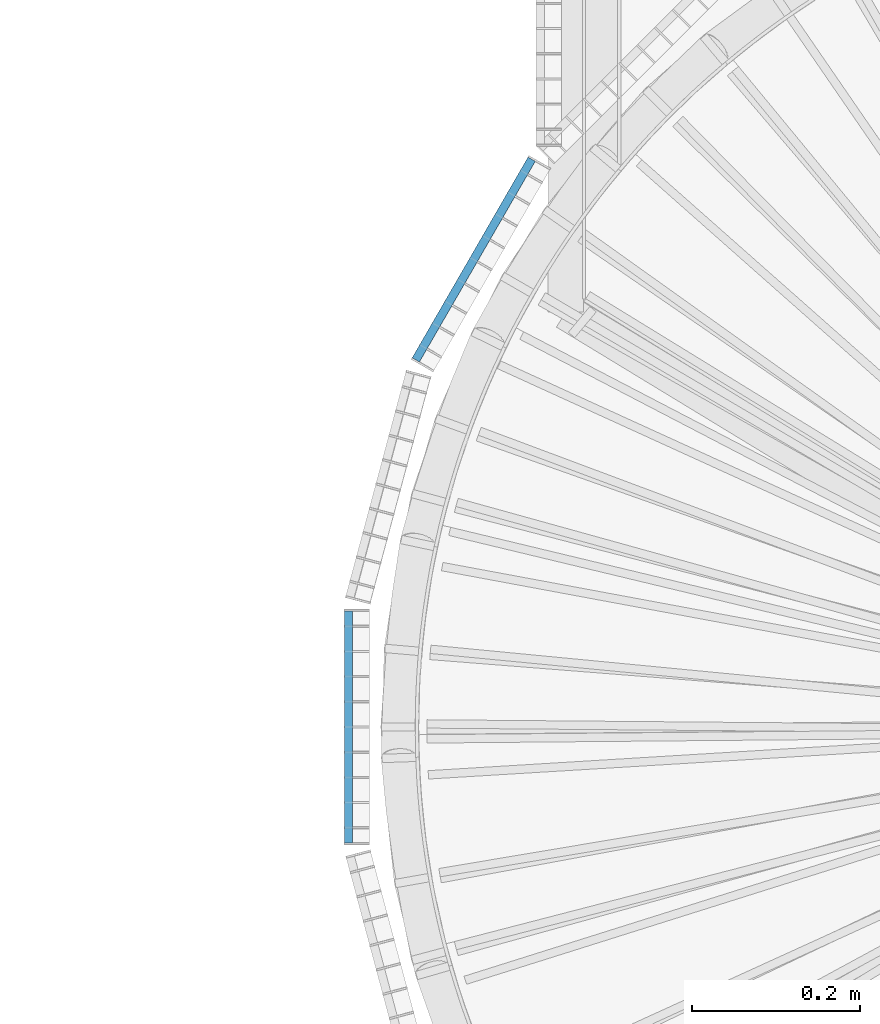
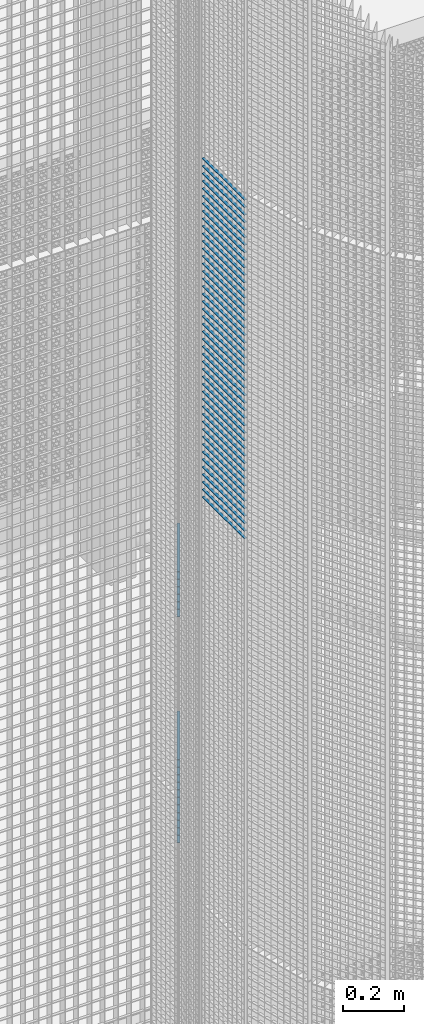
# One storey, part 193 of 1148: 65 beams, 2 elements without a shape of their own.
"""IFC2X3 building model written with IfcOpenShell, lengths in millimetres."""

from ifc_helpers import new_model, si_unit, frame, origin_with_axes, origin_2d_with_axis, place, context, subcontext, project, spatial, rectangle, extrude, material, type_object, element, aggregate, save


model = new_model("IFC2X3")

# Units and contexts
model_context = context("Model", 3, precision=1e-05, world=origin_with_axes())
body_context = subcontext(model_context, "Body", "Model", "MODEL_VIEW")
ifc_project = project(units=[si_unit("LENGTHUNIT", "METRE", prefix="MILLI"), si_unit("AREAUNIT", "SQUARE_METRE"), si_unit("VOLUMEUNIT", "CUBIC_METRE"), si_unit("MASSUNIT", "GRAM", prefix="KILO"), si_unit("TIMEUNIT", "SECOND"), si_unit("PLANEANGLEUNIT", "RADIAN"), si_unit("SOLIDANGLEUNIT", "STERADIAN"), si_unit("THERMODYNAMICTEMPERATUREUNIT", "DEGREE_CELSIUS"), si_unit("LUMINOUSINTENSITYUNIT", "LUMEN")], contexts=[model_context])

# Site, building, storey
site_placement = place(None, origin_with_axes())
site = spatial("IfcSite", under=ifc_project, at=site_placement, Name="Undefined", CompositionType="ELEMENT")
building_placement = place(site_placement, origin_with_axes())
building = spatial("IfcBuilding", under=site, at=building_placement, Name="Undefined", CompositionType="ELEMENT")
storey_placement = place(building_placement, origin_with_axes())
storey = spatial("IfcBuildingStorey", under=building, at=storey_placement, Name="Undefined", CompositionType="ELEMENT", Elevation=0.0)

# Assembly, beams
assembly_1_placement = place(storey_placement, origin_with_axes())
assembly_1 = element("IfcElementAssembly", 1, at=assembly_1_placement, inside=storey, Name="BORDURE", AssemblyPlace="NOTDEFINED", PredefinedType="NOTDEFINED")
ifc_material = material(Name="STEEL/S235JR")
beam_type = type_object("IfcBeamType", Name="PL2*10", PredefinedType="NOTDEFINED")
beam_1_placement = place(assembly_1_placement, frame((-895.303964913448, 676.248044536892, 9930.0), z_axis=(-0.866025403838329, 0.499999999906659, 0.0), x_axis=(-0.49999999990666, -0.866025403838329, 0.0)))
beam_1 = element("IfcBeam", 2, at=beam_1_placement, type_object=beam_type, material=ifc_material, Name="ENTRETOISE", context=body_context, shape_type="SweptSolid", body=[
    extrude(rectangle(XDim=2.0, YDim=10.0, at=origin_2d_with_axis()), frame((275.999999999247, 9.09494701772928e-13, 1.53210777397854e-14), z_axis=(-1.0, 0.0, 0.0), x_axis=(0.0, -1.0, 0.0)), (0.0, 0.0, 1.0), 276.0),
])
beam_2_placement = place(assembly_1_placement, frame((-895.30396491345, 676.248044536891, 9360.0), z_axis=(-0.866025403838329, 0.499999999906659, 0.0), x_axis=(-0.49999999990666, -0.866025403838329, 0.0)))
beam_2 = element("IfcBeam", 3, at=beam_2_placement, type_object=beam_type, material=ifc_material, Name="ENTRETOISE", context=body_context, shape_type="SweptSolid", body=[
    extrude(rectangle(XDim=2.0, YDim=10.0, at=origin_2d_with_axis()), frame((275.999999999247, 9.09494701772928e-13, 1.53210777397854e-14), z_axis=(-1.0, 0.0, 0.0), x_axis=(0.0, -1.0, 0.0)), (0.0, 0.0, 1.0), 276.0),
])
beam_3_placement = place(assembly_1_placement, frame((-895.303964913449, 676.248044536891, 9330.0), z_axis=(-0.866025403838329, 0.499999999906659, 0.0), x_axis=(-0.49999999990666, -0.866025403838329, 0.0)))
beam_3 = element("IfcBeam", 4, at=beam_3_placement, type_object=beam_type, material=ifc_material, Name="ENTRETOISE", context=body_context, shape_type="SweptSolid", body=[
    extrude(rectangle(XDim=2.0, YDim=10.0, at=origin_2d_with_axis()), frame((275.999999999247, 9.09494701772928e-13, 1.53210777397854e-14), z_axis=(-1.0, 0.0, 0.0), x_axis=(0.0, -1.0, 0.0)), (0.0, 0.0, 1.0), 276.0),
])
beam_4_placement = place(assembly_1_placement, frame((-895.303964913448, 676.248044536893, 9960.0), z_axis=(-0.866025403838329, 0.499999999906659, 0.0), x_axis=(-0.49999999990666, -0.866025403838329, 0.0)))
beam_4 = element("IfcBeam", 5, at=beam_4_placement, type_object=beam_type, material=ifc_material, Name="ENTRETOISE", context=body_context, shape_type="SweptSolid", body=[
    extrude(rectangle(XDim=2.0, YDim=10.0, at=origin_2d_with_axis()), frame((275.999999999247, 9.09494701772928e-13, 1.53210777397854e-14), z_axis=(-1.0, 0.0, 0.0), x_axis=(0.0, -1.0, 0.0)), (0.0, 0.0, 1.0), 276.0),
])
beam_5_placement = place(assembly_1_placement, frame((-895.303964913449, 676.248044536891, 9300.0), z_axis=(-0.866025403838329, 0.499999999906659, 0.0), x_axis=(-0.49999999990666, -0.866025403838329, 0.0)))
beam_5 = element("IfcBeam", 6, at=beam_5_placement, type_object=beam_type, material=ifc_material, Name="ENTRETOISE", context=body_context, shape_type="SweptSolid", body=[
    extrude(rectangle(XDim=2.0, YDim=10.0, at=origin_2d_with_axis()), frame((275.999999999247, 9.09494701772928e-13, 1.53210777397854e-14), z_axis=(-1.0, 0.0, 0.0), x_axis=(0.0, -1.0, 0.0)), (0.0, 0.0, 1.0), 276.0),
])
beam_6_placement = place(assembly_1_placement, frame((-895.303964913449, 676.248044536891, 9270.0), z_axis=(-0.866025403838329, 0.499999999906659, 0.0), x_axis=(-0.49999999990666, -0.866025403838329, 0.0)))
beam_6 = element("IfcBeam", 7, at=beam_6_placement, type_object=beam_type, material=ifc_material, Name="ENTRETOISE", context=body_context, shape_type="SweptSolid", body=[
    extrude(rectangle(XDim=2.0, YDim=10.0, at=origin_2d_with_axis()), frame((275.999999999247, 9.09494701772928e-13, 1.53210777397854e-14), z_axis=(-1.0, 0.0, 0.0), x_axis=(0.0, -1.0, 0.0)), (0.0, 0.0, 1.0), 276.0),
])
beam_7_placement = place(assembly_1_placement, frame((-895.303964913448, 676.248044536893, 9990.0), z_axis=(-0.866025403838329, 0.499999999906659, 0.0), x_axis=(-0.49999999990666, -0.866025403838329, 0.0)))
beam_7 = element("IfcBeam", 8, at=beam_7_placement, type_object=beam_type, material=ifc_material, Name="ENTRETOISE", context=body_context, shape_type="SweptSolid", body=[
    extrude(rectangle(XDim=2.0, YDim=10.0, at=origin_2d_with_axis()), frame((275.999999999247, 9.09494701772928e-13, 1.53210777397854e-14), z_axis=(-1.0, 0.0, 0.0), x_axis=(0.0, -1.0, 0.0)), (0.0, 0.0, 1.0), 276.0),
])
beam_8_placement = place(assembly_1_placement, frame((-895.303964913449, 676.24804453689, 9240.0), z_axis=(-0.866025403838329, 0.499999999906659, 0.0), x_axis=(-0.49999999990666, -0.866025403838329, 0.0)))
beam_8 = element("IfcBeam", 9, at=beam_8_placement, type_object=beam_type, material=ifc_material, Name="ENTRETOISE", context=body_context, shape_type="SweptSolid", body=[
    extrude(rectangle(XDim=2.0, YDim=10.0, at=origin_2d_with_axis()), frame((275.999999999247, 9.09494701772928e-13, 1.53210777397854e-14), z_axis=(-1.0, 0.0, 0.0), x_axis=(0.0, -1.0, 0.0)), (0.0, 0.0, 1.0), 276.0),
])
beam_9_placement = place(assembly_1_placement, frame((-895.303964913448, 676.248044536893, 10020.0), z_axis=(-0.866025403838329, 0.499999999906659, 0.0), x_axis=(-0.49999999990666, -0.866025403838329, 0.0)))
beam_9 = element("IfcBeam", 10, at=beam_9_placement, type_object=beam_type, material=ifc_material, Name="ENTRETOISE", context=body_context, shape_type="SweptSolid", body=[
    extrude(rectangle(XDim=2.0, YDim=10.0, at=origin_2d_with_axis()), frame((275.999999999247, 9.09494701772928e-13, 1.53210777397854e-14), z_axis=(-1.0, 0.0, 0.0), x_axis=(0.0, -1.0, 0.0)), (0.0, 0.0, 1.0), 276.0),
])
beam_10_placement = place(assembly_1_placement, frame((-895.303964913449, 676.24804453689, 9210.0), z_axis=(-0.866025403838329, 0.499999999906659, 0.0), x_axis=(-0.49999999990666, -0.866025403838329, 0.0)))
beam_10 = element("IfcBeam", 11, at=beam_10_placement, type_object=beam_type, material=ifc_material, Name="ENTRETOISE", context=body_context, shape_type="SweptSolid", body=[
    extrude(rectangle(XDim=2.0, YDim=10.0, at=origin_2d_with_axis()), frame((275.999999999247, 9.09494701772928e-13, 1.53210777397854e-14), z_axis=(-1.0, 0.0, 0.0), x_axis=(0.0, -1.0, 0.0)), (0.0, 0.0, 1.0), 276.0),
])
beam_11_placement = place(assembly_1_placement, frame((-895.30396491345, 676.24804453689, 9180.0), z_axis=(-0.866025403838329, 0.499999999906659, 0.0), x_axis=(-0.49999999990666, -0.866025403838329, 0.0)))
beam_11 = element("IfcBeam", 12, at=beam_11_placement, type_object=beam_type, material=ifc_material, Name="ENTRETOISE", context=body_context, shape_type="SweptSolid", body=[
    extrude(rectangle(XDim=2.0, YDim=10.0, at=origin_2d_with_axis()), frame((275.999999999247, 9.09494701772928e-13, 1.53210777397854e-14), z_axis=(-1.0, 0.0, 0.0), x_axis=(0.0, -1.0, 0.0)), (0.0, 0.0, 1.0), 276.0),
])
beam_12_placement = place(assembly_1_placement, frame((-895.303964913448, 676.248044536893, 10050.0), z_axis=(-0.866025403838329, 0.499999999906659, 0.0), x_axis=(-0.49999999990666, -0.866025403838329, 0.0)))
beam_12 = element("IfcBeam", 13, at=beam_12_placement, type_object=beam_type, material=ifc_material, Name="ENTRETOISE", context=body_context, shape_type="SweptSolid", body=[
    extrude(rectangle(XDim=2.0, YDim=10.0, at=origin_2d_with_axis()), frame((275.999999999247, 9.09494701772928e-13, 1.53210777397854e-14), z_axis=(-1.0, 0.0, 0.0), x_axis=(0.0, -1.0, 0.0)), (0.0, 0.0, 1.0), 276.0),
])
beam_13_placement = place(assembly_1_placement, frame((-895.30396491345, 676.24804453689, 9150.0), z_axis=(-0.866025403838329, 0.499999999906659, 0.0), x_axis=(-0.49999999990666, -0.866025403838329, 0.0)))
beam_13 = element("IfcBeam", 14, at=beam_13_placement, type_object=beam_type, material=ifc_material, Name="ENTRETOISE", context=body_context, shape_type="SweptSolid", body=[
    extrude(rectangle(XDim=2.0, YDim=10.0, at=origin_2d_with_axis()), frame((275.999999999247, 9.09494701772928e-13, 1.53210777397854e-14), z_axis=(-1.0, 0.0, 0.0), x_axis=(0.0, -1.0, 0.0)), (0.0, 0.0, 1.0), 276.0),
])
beam_14_placement = place(assembly_1_placement, frame((-895.30396491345, 676.24804453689, 9120.0), z_axis=(-0.866025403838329, 0.499999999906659, 0.0), x_axis=(-0.49999999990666, -0.866025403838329, 0.0)))
beam_14 = element("IfcBeam", 15, at=beam_14_placement, type_object=beam_type, material=ifc_material, Name="ENTRETOISE", context=body_context, shape_type="SweptSolid", body=[
    extrude(rectangle(XDim=2.0, YDim=10.0, at=origin_2d_with_axis()), frame((275.999999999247, 9.09494701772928e-13, 1.53210777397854e-14), z_axis=(-1.0, 0.0, 0.0), x_axis=(0.0, -1.0, 0.0)), (0.0, 0.0, 1.0), 276.0),
])
beam_15_placement = place(assembly_1_placement, frame((-895.303964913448, 676.248044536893, 10080.0), z_axis=(-0.866025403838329, 0.499999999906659, 0.0), x_axis=(-0.49999999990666, -0.866025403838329, 0.0)))
beam_15 = element("IfcBeam", 16, at=beam_15_placement, type_object=beam_type, material=ifc_material, Name="ENTRETOISE", context=body_context, shape_type="SweptSolid", body=[
    extrude(rectangle(XDim=2.0, YDim=10.0, at=origin_2d_with_axis()), frame((275.999999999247, 9.09494701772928e-13, 1.53210777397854e-14), z_axis=(-1.0, 0.0, 0.0), x_axis=(0.0, -1.0, 0.0)), (0.0, 0.0, 1.0), 276.0),
])
beam_16_placement = place(assembly_1_placement, frame((-895.30396491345, 676.24804453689, 9090.0), z_axis=(-0.866025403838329, 0.499999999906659, 0.0), x_axis=(-0.49999999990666, -0.866025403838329, 0.0)))
beam_16 = element("IfcBeam", 17, at=beam_16_placement, type_object=beam_type, material=ifc_material, Name="ENTRETOISE", context=body_context, shape_type="SweptSolid", body=[
    extrude(rectangle(XDim=2.0, YDim=10.0, at=origin_2d_with_axis()), frame((275.999999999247, 9.09494701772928e-13, 1.53210777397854e-14), z_axis=(-1.0, 0.0, 0.0), x_axis=(0.0, -1.0, 0.0)), (0.0, 0.0, 1.0), 276.0),
])
beam_17_placement = place(assembly_1_placement, frame((-895.30396491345, 676.24804453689, 9060.0), z_axis=(-0.866025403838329, 0.499999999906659, 0.0), x_axis=(-0.49999999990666, -0.866025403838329, 0.0)))
beam_17 = element("IfcBeam", 18, at=beam_17_placement, type_object=beam_type, material=ifc_material, Name="ENTRETOISE", context=body_context, shape_type="SweptSolid", body=[
    extrude(rectangle(XDim=2.0, YDim=10.0, at=origin_2d_with_axis()), frame((275.999999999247, 9.09494701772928e-13, 1.53210777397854e-14), z_axis=(-1.0, 0.0, 0.0), x_axis=(0.0, -1.0, 0.0)), (0.0, 0.0, 1.0), 276.0),
])
beam_18_placement = place(assembly_1_placement, frame((-895.303964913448, 676.248044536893, 10110.0), z_axis=(-0.866025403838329, 0.499999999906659, 0.0), x_axis=(-0.49999999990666, -0.866025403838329, 0.0)))
beam_18 = element("IfcBeam", 19, at=beam_18_placement, type_object=beam_type, material=ifc_material, Name="ENTRETOISE", context=body_context, shape_type="SweptSolid", body=[
    extrude(rectangle(XDim=2.0, YDim=10.0, at=origin_2d_with_axis()), frame((275.999999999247, 9.09494701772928e-13, 1.53210777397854e-14), z_axis=(-1.0, 0.0, 0.0), x_axis=(0.0, -1.0, 0.0)), (0.0, 0.0, 1.0), 276.0),
])
beam_19_placement = place(assembly_1_placement, frame((-895.30396491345, 676.248044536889, 9030.0), z_axis=(-0.866025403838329, 0.499999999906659, 0.0), x_axis=(-0.49999999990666, -0.866025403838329, 0.0)))
beam_19 = element("IfcBeam", 20, at=beam_19_placement, type_object=beam_type, material=ifc_material, Name="ENTRETOISE", context=body_context, shape_type="SweptSolid", body=[
    extrude(rectangle(XDim=2.0, YDim=10.0, at=origin_2d_with_axis()), frame((275.999999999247, 9.09494701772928e-13, 1.53210777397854e-14), z_axis=(-1.0, 0.0, 0.0), x_axis=(0.0, -1.0, 0.0)), (0.0, 0.0, 1.0), 276.0),
])
aggregate(assembly_1, [beam_1, beam_2, beam_3, beam_4, beam_5, beam_6, beam_7, beam_8, beam_9, beam_10, beam_11, beam_12, beam_13, beam_14, beam_15, beam_16, beam_17, beam_18, beam_19])

assembly_2_placement = place(storey_placement, origin_with_axes())
assembly_2 = element("IfcElementAssembly", 21, at=assembly_2_placement, inside=storey, Name="BORDURE", AssemblyPlace="NOTDEFINED", PredefinedType="NOTDEFINED")
beam_20_placement = place(assembly_2_placement, frame((-1113.47999999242, 137.996003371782, 11970.0), z_axis=(-1.0, 0.0, 0.0), x_axis=(0.0, -1.0, 0.0)))
beam_20 = element("IfcBeam", 22, at=beam_20_placement, type_object=beam_type, material=ifc_material, Name="ENTRETOISE", context=body_context, shape_type="SweptSolid", body=[
    extrude(rectangle(XDim=2.0, YDim=10.0, at=origin_2d_with_axis()), frame((275.999999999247, 9.09494701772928e-13, 1.53210777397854e-14), z_axis=(-1.0, 0.0, 0.0), x_axis=(0.0, -1.0, 0.0)), (0.0, 0.0, 1.0), 276.0),
])
beam_21_placement = place(assembly_2_placement, frame((-1113.47999999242, 137.996003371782, 11940.0), z_axis=(-1.0, 0.0, 0.0), x_axis=(0.0, -1.0, 0.0)))
beam_21 = element("IfcBeam", 23, at=beam_21_placement, type_object=beam_type, material=ifc_material, Name="ENTRETOISE", context=body_context, shape_type="SweptSolid", body=[
    extrude(rectangle(XDim=2.0, YDim=10.0, at=origin_2d_with_axis()), frame((275.999999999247, 9.09494701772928e-13, 1.53210777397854e-14), z_axis=(-1.0, 0.0, 0.0), x_axis=(0.0, -1.0, 0.0)), (0.0, 0.0, 1.0), 276.0),
])
beam_22_placement = place(assembly_2_placement, frame((-1113.47999999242, 137.996003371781, 11910.0), z_axis=(-1.0, 0.0, 0.0), x_axis=(0.0, -1.0, 0.0)))
beam_22 = element("IfcBeam", 24, at=beam_22_placement, type_object=beam_type, material=ifc_material, Name="ENTRETOISE", context=body_context, shape_type="SweptSolid", body=[
    extrude(rectangle(XDim=2.0, YDim=10.0, at=origin_2d_with_axis()), frame((275.999999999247, 9.09494701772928e-13, 1.53210777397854e-14), z_axis=(-1.0, 0.0, 0.0), x_axis=(0.0, -1.0, 0.0)), (0.0, 0.0, 1.0), 276.0),
])
beam_23_placement = place(assembly_2_placement, frame((-1113.47999999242, 137.996003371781, 11880.0), z_axis=(-1.0, 0.0, 0.0), x_axis=(0.0, -1.0, 0.0)))
beam_23 = element("IfcBeam", 25, at=beam_23_placement, type_object=beam_type, material=ifc_material, Name="ENTRETOISE", context=body_context, shape_type="SweptSolid", body=[
    extrude(rectangle(XDim=2.0, YDim=10.0, at=origin_2d_with_axis()), frame((275.999999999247, 9.09494701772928e-13, 1.53210777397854e-14), z_axis=(-1.0, 0.0, 0.0), x_axis=(0.0, -1.0, 0.0)), (0.0, 0.0, 1.0), 276.0),
])
beam_24_placement = place(assembly_2_placement, frame((-1113.47999999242, 137.996003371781, 11850.0), z_axis=(-1.0, 0.0, 0.0), x_axis=(0.0, -1.0, 0.0)))
beam_24 = element("IfcBeam", 26, at=beam_24_placement, type_object=beam_type, material=ifc_material, Name="ENTRETOISE", context=body_context, shape_type="SweptSolid", body=[
    extrude(rectangle(XDim=2.0, YDim=10.0, at=origin_2d_with_axis()), frame((275.999999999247, 9.09494701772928e-13, 1.53210777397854e-14), z_axis=(-1.0, 0.0, 0.0), x_axis=(0.0, -1.0, 0.0)), (0.0, 0.0, 1.0), 276.0),
])
beam_25_placement = place(assembly_2_placement, frame((-1113.47999999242, 137.996003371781, 11820.0), z_axis=(-1.0, 0.0, 0.0), x_axis=(0.0, -1.0, 0.0)))
beam_25 = element("IfcBeam", 27, at=beam_25_placement, type_object=beam_type, material=ifc_material, Name="ENTRETOISE", context=body_context, shape_type="SweptSolid", body=[
    extrude(rectangle(XDim=2.0, YDim=10.0, at=origin_2d_with_axis()), frame((275.999999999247, 9.09494701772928e-13, 1.53210777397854e-14), z_axis=(-1.0, 0.0, 0.0), x_axis=(0.0, -1.0, 0.0)), (0.0, 0.0, 1.0), 276.0),
])
beam_26_placement = place(assembly_2_placement, frame((-1113.47999999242, 137.996003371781, 11790.0), z_axis=(-1.0, 0.0, 0.0), x_axis=(0.0, -1.0, 0.0)))
beam_26 = element("IfcBeam", 28, at=beam_26_placement, type_object=beam_type, material=ifc_material, Name="ENTRETOISE", context=body_context, shape_type="SweptSolid", body=[
    extrude(rectangle(XDim=2.0, YDim=10.0, at=origin_2d_with_axis()), frame((275.999999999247, 9.09494701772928e-13, 1.53210777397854e-14), z_axis=(-1.0, 0.0, 0.0), x_axis=(0.0, -1.0, 0.0)), (0.0, 0.0, 1.0), 276.0),
])
beam_27_placement = place(assembly_2_placement, frame((-1113.47999999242, 137.996003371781, 11760.0), z_axis=(-1.0, 0.0, 0.0), x_axis=(0.0, -1.0, 0.0)))
beam_27 = element("IfcBeam", 29, at=beam_27_placement, type_object=beam_type, material=ifc_material, Name="ENTRETOISE", context=body_context, shape_type="SweptSolid", body=[
    extrude(rectangle(XDim=2.0, YDim=10.0, at=origin_2d_with_axis()), frame((275.999999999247, 9.09494701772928e-13, 1.53210777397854e-14), z_axis=(-1.0, 0.0, 0.0), x_axis=(0.0, -1.0, 0.0)), (0.0, 0.0, 1.0), 276.0),
])
beam_28_placement = place(assembly_2_placement, frame((-1113.47999999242, 137.996003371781, 11730.0), z_axis=(-1.0, 0.0, 0.0), x_axis=(0.0, -1.0, 0.0)))
beam_28 = element("IfcBeam", 30, at=beam_28_placement, type_object=beam_type, material=ifc_material, Name="ENTRETOISE", context=body_context, shape_type="SweptSolid", body=[
    extrude(rectangle(XDim=2.0, YDim=10.0, at=origin_2d_with_axis()), frame((275.999999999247, 9.09494701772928e-13, 1.53210777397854e-14), z_axis=(-1.0, 0.0, 0.0), x_axis=(0.0, -1.0, 0.0)), (0.0, 0.0, 1.0), 276.0),
])
beam_29_placement = place(assembly_2_placement, frame((-1113.47999999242, 137.996003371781, 11700.0), z_axis=(-1.0, 0.0, 0.0), x_axis=(0.0, -1.0, 0.0)))
beam_29 = element("IfcBeam", 31, at=beam_29_placement, type_object=beam_type, material=ifc_material, Name="ENTRETOISE", context=body_context, shape_type="SweptSolid", body=[
    extrude(rectangle(XDim=2.0, YDim=10.0, at=origin_2d_with_axis()), frame((275.999999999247, 9.09494701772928e-13, 1.53210777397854e-14), z_axis=(-1.0, 0.0, 0.0), x_axis=(0.0, -1.0, 0.0)), (0.0, 0.0, 1.0), 276.0),
])
beam_30_placement = place(assembly_2_placement, frame((-1113.47999999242, 137.996003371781, 11670.0), z_axis=(-1.0, 0.0, 0.0), x_axis=(0.0, -1.0, 0.0)))
beam_30 = element("IfcBeam", 32, at=beam_30_placement, type_object=beam_type, material=ifc_material, Name="ENTRETOISE", context=body_context, shape_type="SweptSolid", body=[
    extrude(rectangle(XDim=2.0, YDim=10.0, at=origin_2d_with_axis()), frame((275.999999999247, 9.09494701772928e-13, 1.53210777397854e-14), z_axis=(-1.0, 0.0, 0.0), x_axis=(0.0, -1.0, 0.0)), (0.0, 0.0, 1.0), 276.0),
])
beam_31_placement = place(assembly_2_placement, frame((-1113.47999999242, 137.99600337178, 11640.0), z_axis=(-1.0, 0.0, 0.0), x_axis=(0.0, -1.0, 0.0)))
beam_31 = element("IfcBeam", 33, at=beam_31_placement, type_object=beam_type, material=ifc_material, Name="ENTRETOISE", context=body_context, shape_type="SweptSolid", body=[
    extrude(rectangle(XDim=2.0, YDim=10.0, at=origin_2d_with_axis()), frame((275.999999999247, 9.09494701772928e-13, 1.53210777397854e-14), z_axis=(-1.0, 0.0, 0.0), x_axis=(0.0, -1.0, 0.0)), (0.0, 0.0, 1.0), 276.0),
])
beam_32_placement = place(assembly_2_placement, frame((-1113.47999999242, 137.99600337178, 11610.0), z_axis=(-1.0, 0.0, 0.0), x_axis=(0.0, -1.0, 0.0)))
beam_32 = element("IfcBeam", 34, at=beam_32_placement, type_object=beam_type, material=ifc_material, Name="ENTRETOISE", context=body_context, shape_type="SweptSolid", body=[
    extrude(rectangle(XDim=2.0, YDim=10.0, at=origin_2d_with_axis()), frame((275.999999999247, 9.09494701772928e-13, 1.53210777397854e-14), z_axis=(-1.0, 0.0, 0.0), x_axis=(0.0, -1.0, 0.0)), (0.0, 0.0, 1.0), 276.0),
])
beam_33_placement = place(assembly_2_placement, frame((-1113.47999999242, 137.99600337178, 11580.0), z_axis=(-1.0, 0.0, 0.0), x_axis=(0.0, -1.0, 0.0)))
beam_33 = element("IfcBeam", 35, at=beam_33_placement, type_object=beam_type, material=ifc_material, Name="ENTRETOISE", context=body_context, shape_type="SweptSolid", body=[
    extrude(rectangle(XDim=2.0, YDim=10.0, at=origin_2d_with_axis()), frame((275.999999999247, 9.09494701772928e-13, 1.53210777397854e-14), z_axis=(-1.0, 0.0, 0.0), x_axis=(0.0, -1.0, 0.0)), (0.0, 0.0, 1.0), 276.0),
])
beam_34_placement = place(assembly_2_placement, frame((-1113.47999999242, 137.99600337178, 11550.0), z_axis=(-1.0, 0.0, 0.0), x_axis=(0.0, -1.0, 0.0)))
beam_34 = element("IfcBeam", 36, at=beam_34_placement, type_object=beam_type, material=ifc_material, Name="ENTRETOISE", context=body_context, shape_type="SweptSolid", body=[
    extrude(rectangle(XDim=2.0, YDim=10.0, at=origin_2d_with_axis()), frame((275.999999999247, 9.09494701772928e-13, 1.53210777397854e-14), z_axis=(-1.0, 0.0, 0.0), x_axis=(0.0, -1.0, 0.0)), (0.0, 0.0, 1.0), 276.0),
])
beam_35_placement = place(assembly_2_placement, frame((-1113.47999999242, 137.99600337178, 11520.0), z_axis=(-1.0, 0.0, 0.0), x_axis=(0.0, -1.0, 0.0)))
beam_35 = element("IfcBeam", 37, at=beam_35_placement, type_object=beam_type, material=ifc_material, Name="ENTRETOISE", context=body_context, shape_type="SweptSolid", body=[
    extrude(rectangle(XDim=2.0, YDim=10.0, at=origin_2d_with_axis()), frame((275.999999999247, 9.09494701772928e-13, 1.53210777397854e-14), z_axis=(-1.0, 0.0, 0.0), x_axis=(0.0, -1.0, 0.0)), (0.0, 0.0, 1.0), 276.0),
])
beam_36_placement = place(assembly_2_placement, frame((-1113.47999999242, 137.99600337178, 11490.0), z_axis=(-1.0, 0.0, 0.0), x_axis=(0.0, -1.0, 0.0)))
beam_36 = element("IfcBeam", 38, at=beam_36_placement, type_object=beam_type, material=ifc_material, Name="ENTRETOISE", context=body_context, shape_type="SweptSolid", body=[
    extrude(rectangle(XDim=2.0, YDim=10.0, at=origin_2d_with_axis()), frame((275.999999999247, 9.09494701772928e-13, 1.53210777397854e-14), z_axis=(-1.0, 0.0, 0.0), x_axis=(0.0, -1.0, 0.0)), (0.0, 0.0, 1.0), 276.0),
])
beam_37_placement = place(assembly_2_placement, frame((-1113.47999999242, 137.99600337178, 11460.0), z_axis=(-1.0, 0.0, 0.0), x_axis=(0.0, -1.0, 0.0)))
beam_37 = element("IfcBeam", 39, at=beam_37_placement, type_object=beam_type, material=ifc_material, Name="ENTRETOISE", context=body_context, shape_type="SweptSolid", body=[
    extrude(rectangle(XDim=2.0, YDim=10.0, at=origin_2d_with_axis()), frame((275.999999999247, 9.09494701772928e-13, 1.53210777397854e-14), z_axis=(-1.0, 0.0, 0.0), x_axis=(0.0, -1.0, 0.0)), (0.0, 0.0, 1.0), 276.0),
])
beam_38_placement = place(assembly_2_placement, frame((-1113.47999999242, 137.99600337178, 11430.0), z_axis=(-1.0, 0.0, 0.0), x_axis=(0.0, -1.0, 0.0)))
beam_38 = element("IfcBeam", 40, at=beam_38_placement, type_object=beam_type, material=ifc_material, Name="ENTRETOISE", context=body_context, shape_type="SweptSolid", body=[
    extrude(rectangle(XDim=2.0, YDim=10.0, at=origin_2d_with_axis()), frame((275.999999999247, 9.09494701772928e-13, 1.53210777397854e-14), z_axis=(-1.0, 0.0, 0.0), x_axis=(0.0, -1.0, 0.0)), (0.0, 0.0, 1.0), 276.0),
])
beam_39_placement = place(assembly_2_placement, frame((-1113.47999999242, 137.99600337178, 11400.0), z_axis=(-1.0, 0.0, 0.0), x_axis=(0.0, -1.0, 0.0)))
beam_39 = element("IfcBeam", 41, at=beam_39_placement, type_object=beam_type, material=ifc_material, Name="ENTRETOISE", context=body_context, shape_type="SweptSolid", body=[
    extrude(rectangle(XDim=2.0, YDim=10.0, at=origin_2d_with_axis()), frame((275.999999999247, 9.09494701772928e-13, 1.53210777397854e-14), z_axis=(-1.0, 0.0, 0.0), x_axis=(0.0, -1.0, 0.0)), (0.0, 0.0, 1.0), 276.0),
])
beam_40_placement = place(assembly_2_placement, frame((-1113.47999999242, 137.996003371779, 11370.0), z_axis=(-1.0, 0.0, 0.0), x_axis=(0.0, -1.0, 0.0)))
beam_40 = element("IfcBeam", 42, at=beam_40_placement, type_object=beam_type, material=ifc_material, Name="ENTRETOISE", context=body_context, shape_type="SweptSolid", body=[
    extrude(rectangle(XDim=2.0, YDim=10.0, at=origin_2d_with_axis()), frame((275.999999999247, 9.09494701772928e-13, 1.53210777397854e-14), z_axis=(-1.0, 0.0, 0.0), x_axis=(0.0, -1.0, 0.0)), (0.0, 0.0, 1.0), 276.0),
])
beam_41_placement = place(assembly_2_placement, frame((-1113.47999999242, 137.996003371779, 11340.0), z_axis=(-1.0, 0.0, 0.0), x_axis=(0.0, -1.0, 0.0)))
beam_41 = element("IfcBeam", 43, at=beam_41_placement, type_object=beam_type, material=ifc_material, Name="ENTRETOISE", context=body_context, shape_type="SweptSolid", body=[
    extrude(rectangle(XDim=2.0, YDim=10.0, at=origin_2d_with_axis()), frame((275.999999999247, 9.09494701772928e-13, 1.53210777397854e-14), z_axis=(-1.0, 0.0, 0.0), x_axis=(0.0, -1.0, 0.0)), (0.0, 0.0, 1.0), 276.0),
])
beam_42_placement = place(assembly_2_placement, frame((-1113.47999999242, 137.996003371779, 11310.0), z_axis=(-1.0, 0.0, 0.0), x_axis=(0.0, -1.0, 0.0)))
beam_42 = element("IfcBeam", 44, at=beam_42_placement, type_object=beam_type, material=ifc_material, Name="ENTRETOISE", context=body_context, shape_type="SweptSolid", body=[
    extrude(rectangle(XDim=2.0, YDim=10.0, at=origin_2d_with_axis()), frame((275.999999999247, 9.09494701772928e-13, 1.53210777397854e-14), z_axis=(-1.0, 0.0, 0.0), x_axis=(0.0, -1.0, 0.0)), (0.0, 0.0, 1.0), 276.0),
])
beam_43_placement = place(assembly_2_placement, frame((-1113.47999999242, 137.996003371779, 11280.0), z_axis=(-1.0, 0.0, 0.0), x_axis=(0.0, -1.0, 0.0)))
beam_43 = element("IfcBeam", 45, at=beam_43_placement, type_object=beam_type, material=ifc_material, Name="ENTRETOISE", context=body_context, shape_type="SweptSolid", body=[
    extrude(rectangle(XDim=2.0, YDim=10.0, at=origin_2d_with_axis()), frame((275.999999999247, 9.09494701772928e-13, 1.53210777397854e-14), z_axis=(-1.0, 0.0, 0.0), x_axis=(0.0, -1.0, 0.0)), (0.0, 0.0, 1.0), 276.0),
])
beam_44_placement = place(assembly_2_placement, frame((-1113.47999999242, 137.996003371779, 11250.0), z_axis=(-1.0, 0.0, 0.0), x_axis=(0.0, -1.0, 0.0)))
beam_44 = element("IfcBeam", 46, at=beam_44_placement, type_object=beam_type, material=ifc_material, Name="ENTRETOISE", context=body_context, shape_type="SweptSolid", body=[
    extrude(rectangle(XDim=2.0, YDim=10.0, at=origin_2d_with_axis()), frame((275.999999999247, 9.09494701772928e-13, 1.53210777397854e-14), z_axis=(-1.0, 0.0, 0.0), x_axis=(0.0, -1.0, 0.0)), (0.0, 0.0, 1.0), 276.0),
])
beam_45_placement = place(assembly_2_placement, frame((-1113.47999999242, 137.996003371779, 11220.0), z_axis=(-1.0, 0.0, 0.0), x_axis=(0.0, -1.0, 0.0)))
beam_45 = element("IfcBeam", 47, at=beam_45_placement, type_object=beam_type, material=ifc_material, Name="ENTRETOISE", context=body_context, shape_type="SweptSolid", body=[
    extrude(rectangle(XDim=2.0, YDim=10.0, at=origin_2d_with_axis()), frame((275.999999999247, 9.09494701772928e-13, 1.53210777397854e-14), z_axis=(-1.0, 0.0, 0.0), x_axis=(0.0, -1.0, 0.0)), (0.0, 0.0, 1.0), 276.0),
])
beam_46_placement = place(assembly_2_placement, frame((-1113.47999999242, 137.996003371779, 11190.0), z_axis=(-1.0, 0.0, 0.0), x_axis=(0.0, -1.0, 0.0)))
beam_46 = element("IfcBeam", 48, at=beam_46_placement, type_object=beam_type, material=ifc_material, Name="ENTRETOISE", context=body_context, shape_type="SweptSolid", body=[
    extrude(rectangle(XDim=2.0, YDim=10.0, at=origin_2d_with_axis()), frame((275.999999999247, 9.09494701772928e-13, 1.53210777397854e-14), z_axis=(-1.0, 0.0, 0.0), x_axis=(0.0, -1.0, 0.0)), (0.0, 0.0, 1.0), 276.0),
])
beam_47_placement = place(assembly_2_placement, frame((-1113.47999999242, 137.996003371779, 11160.0), z_axis=(-1.0, 0.0, 0.0), x_axis=(0.0, -1.0, 0.0)))
beam_47 = element("IfcBeam", 49, at=beam_47_placement, type_object=beam_type, material=ifc_material, Name="ENTRETOISE", context=body_context, shape_type="SweptSolid", body=[
    extrude(rectangle(XDim=2.0, YDim=10.0, at=origin_2d_with_axis()), frame((275.999999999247, 9.09494701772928e-13, 1.53210777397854e-14), z_axis=(-1.0, 0.0, 0.0), x_axis=(0.0, -1.0, 0.0)), (0.0, 0.0, 1.0), 276.0),
])
beam_48_placement = place(assembly_2_placement, frame((-1113.47999999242, 137.996003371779, 11130.0), z_axis=(-1.0, 0.0, 0.0), x_axis=(0.0, -1.0, 0.0)))
beam_48 = element("IfcBeam", 50, at=beam_48_placement, type_object=beam_type, material=ifc_material, Name="ENTRETOISE", context=body_context, shape_type="SweptSolid", body=[
    extrude(rectangle(XDim=2.0, YDim=10.0, at=origin_2d_with_axis()), frame((275.999999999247, 9.09494701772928e-13, 1.53210777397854e-14), z_axis=(-1.0, 0.0, 0.0), x_axis=(0.0, -1.0, 0.0)), (0.0, 0.0, 1.0), 276.0),
])
beam_49_placement = place(assembly_2_placement, frame((-1113.47999999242, 137.996003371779, 11100.0), z_axis=(-1.0, 0.0, 0.0), x_axis=(0.0, -1.0, 0.0)))
beam_49 = element("IfcBeam", 51, at=beam_49_placement, type_object=beam_type, material=ifc_material, Name="ENTRETOISE", context=body_context, shape_type="SweptSolid", body=[
    extrude(rectangle(XDim=2.0, YDim=10.0, at=origin_2d_with_axis()), frame((275.999999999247, 9.09494701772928e-13, 1.53210777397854e-14), z_axis=(-1.0, 0.0, 0.0), x_axis=(0.0, -1.0, 0.0)), (0.0, 0.0, 1.0), 276.0),
])
beam_50_placement = place(assembly_2_placement, frame((-1113.47999999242, 137.996003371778, 11070.0), z_axis=(-1.0, 0.0, 0.0), x_axis=(0.0, -1.0, 0.0)))
beam_50 = element("IfcBeam", 52, at=beam_50_placement, type_object=beam_type, material=ifc_material, Name="ENTRETOISE", context=body_context, shape_type="SweptSolid", body=[
    extrude(rectangle(XDim=2.0, YDim=10.0, at=origin_2d_with_axis()), frame((275.999999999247, 9.09494701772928e-13, 1.53210777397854e-14), z_axis=(-1.0, 0.0, 0.0), x_axis=(0.0, -1.0, 0.0)), (0.0, 0.0, 1.0), 276.0),
])
beam_51_placement = place(assembly_2_placement, frame((-1113.47999999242, 137.996003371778, 11040.0), z_axis=(-1.0, 0.0, 0.0), x_axis=(0.0, -1.0, 0.0)))
beam_51 = element("IfcBeam", 53, at=beam_51_placement, type_object=beam_type, material=ifc_material, Name="ENTRETOISE", context=body_context, shape_type="SweptSolid", body=[
    extrude(rectangle(XDim=2.0, YDim=10.0, at=origin_2d_with_axis()), frame((275.999999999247, 9.09494701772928e-13, 1.53210777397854e-14), z_axis=(-1.0, 0.0, 0.0), x_axis=(0.0, -1.0, 0.0)), (0.0, 0.0, 1.0), 276.0),
])
beam_52_placement = place(assembly_2_placement, frame((-1113.47999999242, 137.996003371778, 11010.0), z_axis=(-1.0, 0.0, 0.0), x_axis=(0.0, -1.0, 0.0)))
beam_52 = element("IfcBeam", 54, at=beam_52_placement, type_object=beam_type, material=ifc_material, Name="ENTRETOISE", context=body_context, shape_type="SweptSolid", body=[
    extrude(rectangle(XDim=2.0, YDim=10.0, at=origin_2d_with_axis()), frame((275.999999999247, 9.09494701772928e-13, 1.53210777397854e-14), z_axis=(-1.0, 0.0, 0.0), x_axis=(0.0, -1.0, 0.0)), (0.0, 0.0, 1.0), 276.0),
])
beam_53_placement = place(assembly_2_placement, frame((-1113.47999999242, 137.996003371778, 10980.0), z_axis=(-1.0, 0.0, 0.0), x_axis=(0.0, -1.0, 0.0)))
beam_53 = element("IfcBeam", 55, at=beam_53_placement, type_object=beam_type, material=ifc_material, Name="ENTRETOISE", context=body_context, shape_type="SweptSolid", body=[
    extrude(rectangle(XDim=2.0, YDim=10.0, at=origin_2d_with_axis()), frame((275.999999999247, 9.09494701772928e-13, 1.53210777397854e-14), z_axis=(-1.0, 0.0, 0.0), x_axis=(0.0, -1.0, 0.0)), (0.0, 0.0, 1.0), 276.0),
])
beam_54_placement = place(assembly_2_placement, frame((-1113.47999999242, 137.996003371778, 10950.0), z_axis=(-1.0, 0.0, 0.0), x_axis=(0.0, -1.0, 0.0)))
beam_54 = element("IfcBeam", 56, at=beam_54_placement, type_object=beam_type, material=ifc_material, Name="ENTRETOISE", context=body_context, shape_type="SweptSolid", body=[
    extrude(rectangle(XDim=2.0, YDim=10.0, at=origin_2d_with_axis()), frame((275.999999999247, 9.09494701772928e-13, 1.53210777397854e-14), z_axis=(-1.0, 0.0, 0.0), x_axis=(0.0, -1.0, 0.0)), (0.0, 0.0, 1.0), 276.0),
])
beam_55_placement = place(assembly_2_placement, frame((-1113.47999999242, 137.996003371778, 10920.0), z_axis=(-1.0, 0.0, 0.0), x_axis=(0.0, -1.0, 0.0)))
beam_55 = element("IfcBeam", 57, at=beam_55_placement, type_object=beam_type, material=ifc_material, Name="ENTRETOISE", context=body_context, shape_type="SweptSolid", body=[
    extrude(rectangle(XDim=2.0, YDim=10.0, at=origin_2d_with_axis()), frame((275.999999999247, 9.09494701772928e-13, 1.53210777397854e-14), z_axis=(-1.0, 0.0, 0.0), x_axis=(0.0, -1.0, 0.0)), (0.0, 0.0, 1.0), 276.0),
])
beam_56_placement = place(assembly_2_placement, frame((-1113.47999999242, 137.996003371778, 10890.0), z_axis=(-1.0, 0.0, 0.0), x_axis=(0.0, -1.0, 0.0)))
beam_56 = element("IfcBeam", 58, at=beam_56_placement, type_object=beam_type, material=ifc_material, Name="ENTRETOISE", context=body_context, shape_type="SweptSolid", body=[
    extrude(rectangle(XDim=2.0, YDim=10.0, at=origin_2d_with_axis()), frame((275.999999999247, 9.09494701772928e-13, 1.53210777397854e-14), z_axis=(-1.0, 0.0, 0.0), x_axis=(0.0, -1.0, 0.0)), (0.0, 0.0, 1.0), 276.0),
])
beam_57_placement = place(assembly_2_placement, frame((-1113.47999999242, 137.996003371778, 10860.0), z_axis=(-1.0, 0.0, 0.0), x_axis=(0.0, -1.0, 0.0)))
beam_57 = element("IfcBeam", 59, at=beam_57_placement, type_object=beam_type, material=ifc_material, Name="ENTRETOISE", context=body_context, shape_type="SweptSolid", body=[
    extrude(rectangle(XDim=2.0, YDim=10.0, at=origin_2d_with_axis()), frame((275.999999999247, 9.09494701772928e-13, 1.53210777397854e-14), z_axis=(-1.0, 0.0, 0.0), x_axis=(0.0, -1.0, 0.0)), (0.0, 0.0, 1.0), 276.0),
])
beam_58_placement = place(assembly_2_placement, frame((-1113.47999999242, 137.996003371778, 10830.0), z_axis=(-1.0, 0.0, 0.0), x_axis=(0.0, -1.0, 0.0)))
beam_58 = element("IfcBeam", 60, at=beam_58_placement, type_object=beam_type, material=ifc_material, Name="ENTRETOISE", context=body_context, shape_type="SweptSolid", body=[
    extrude(rectangle(XDim=2.0, YDim=10.0, at=origin_2d_with_axis()), frame((275.999999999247, 9.09494701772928e-13, 1.53210777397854e-14), z_axis=(-1.0, 0.0, 0.0), x_axis=(0.0, -1.0, 0.0)), (0.0, 0.0, 1.0), 276.0),
])
beam_59_placement = place(assembly_2_placement, frame((-1113.47999999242, 137.996003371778, 10800.0), z_axis=(-1.0, 0.0, 0.0), x_axis=(0.0, -1.0, 0.0)))
beam_59 = element("IfcBeam", 61, at=beam_59_placement, type_object=beam_type, material=ifc_material, Name="ENTRETOISE", context=body_context, shape_type="SweptSolid", body=[
    extrude(rectangle(XDim=2.0, YDim=10.0, at=origin_2d_with_axis()), frame((275.999999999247, 9.09494701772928e-13, 1.53210777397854e-14), z_axis=(-1.0, 0.0, 0.0), x_axis=(0.0, -1.0, 0.0)), (0.0, 0.0, 1.0), 276.0),
])
beam_60_placement = place(assembly_2_placement, frame((-1113.47999999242, 137.996003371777, 10770.0), z_axis=(-1.0, 0.0, 0.0), x_axis=(0.0, -1.0, 0.0)))
beam_60 = element("IfcBeam", 62, at=beam_60_placement, type_object=beam_type, material=ifc_material, Name="ENTRETOISE", context=body_context, shape_type="SweptSolid", body=[
    extrude(rectangle(XDim=2.0, YDim=10.0, at=origin_2d_with_axis()), frame((275.999999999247, 9.09494701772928e-13, 1.53210777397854e-14), z_axis=(-1.0, 0.0, 0.0), x_axis=(0.0, -1.0, 0.0)), (0.0, 0.0, 1.0), 276.0),
])
beam_61_placement = place(assembly_2_placement, frame((-1113.47999999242, 137.996003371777, 10740.0), z_axis=(-1.0, 0.0, 0.0), x_axis=(0.0, -1.0, 0.0)))
beam_61 = element("IfcBeam", 63, at=beam_61_placement, type_object=beam_type, material=ifc_material, Name="ENTRETOISE", context=body_context, shape_type="SweptSolid", body=[
    extrude(rectangle(XDim=2.0, YDim=10.0, at=origin_2d_with_axis()), frame((275.999999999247, 9.09494701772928e-13, 1.53210777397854e-14), z_axis=(-1.0, 0.0, 0.0), x_axis=(0.0, -1.0, 0.0)), (0.0, 0.0, 1.0), 276.0),
])
beam_62_placement = place(assembly_2_placement, frame((-1113.47999999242, 137.996003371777, 10710.0), z_axis=(-1.0, 0.0, 0.0), x_axis=(0.0, -1.0, 0.0)))
beam_62 = element("IfcBeam", 64, at=beam_62_placement, type_object=beam_type, material=ifc_material, Name="ENTRETOISE", context=body_context, shape_type="SweptSolid", body=[
    extrude(rectangle(XDim=2.0, YDim=10.0, at=origin_2d_with_axis()), frame((275.999999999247, 9.09494701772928e-13, 1.53210777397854e-14), z_axis=(-1.0, 0.0, 0.0), x_axis=(0.0, -1.0, 0.0)), (0.0, 0.0, 1.0), 276.0),
])
beam_63_placement = place(assembly_2_placement, frame((-1113.47999999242, 137.996003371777, 10680.0), z_axis=(-1.0, 0.0, 0.0), x_axis=(0.0, -1.0, 0.0)))
beam_63 = element("IfcBeam", 65, at=beam_63_placement, type_object=beam_type, material=ifc_material, Name="ENTRETOISE", context=body_context, shape_type="SweptSolid", body=[
    extrude(rectangle(XDim=2.0, YDim=10.0, at=origin_2d_with_axis()), frame((275.999999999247, 9.09494701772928e-13, 1.53210777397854e-14), z_axis=(-1.0, 0.0, 0.0), x_axis=(0.0, -1.0, 0.0)), (0.0, 0.0, 1.0), 276.0),
])
beam_64_placement = place(assembly_2_placement, frame((-1113.47999999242, 137.996003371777, 10650.0), z_axis=(-1.0, 0.0, 0.0), x_axis=(0.0, -1.0, 0.0)))
beam_64 = element("IfcBeam", 66, at=beam_64_placement, type_object=beam_type, material=ifc_material, Name="ENTRETOISE", context=body_context, shape_type="SweptSolid", body=[
    extrude(rectangle(XDim=2.0, YDim=10.0, at=origin_2d_with_axis()), frame((275.999999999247, 9.09494701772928e-13, 1.53210777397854e-14), z_axis=(-1.0, 0.0, 0.0), x_axis=(0.0, -1.0, 0.0)), (0.0, 0.0, 1.0), 276.0),
])
beam_65_placement = place(assembly_2_placement, frame((-1113.47999999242, 137.996003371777, 10620.0), z_axis=(-1.0, 0.0, 0.0), x_axis=(0.0, -1.0, 0.0)))
beam_65 = element("IfcBeam", 67, at=beam_65_placement, type_object=beam_type, material=ifc_material, Name="ENTRETOISE", context=body_context, shape_type="SweptSolid", body=[
    extrude(rectangle(XDim=2.0, YDim=10.0, at=origin_2d_with_axis()), frame((275.999999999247, 9.09494701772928e-13, 1.53210777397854e-14), z_axis=(-1.0, 0.0, 0.0), x_axis=(0.0, -1.0, 0.0)), (0.0, 0.0, 1.0), 276.0),
])
aggregate(assembly_2, [beam_20, beam_21, beam_22, beam_23, beam_24, beam_25, beam_26, beam_27, beam_28, beam_29, beam_30, beam_31, beam_32, beam_33, beam_34, beam_35, beam_36, beam_37, beam_38, beam_39, beam_40, beam_41, beam_42, beam_43, beam_44, beam_45, beam_46, beam_47, beam_48, beam_49, beam_50, beam_51, beam_52, beam_53, beam_54, beam_55, beam_56, beam_57, beam_58, beam_59, beam_60, beam_61, beam_62, beam_63, beam_64, beam_65])

save(model, "model.ifc")
